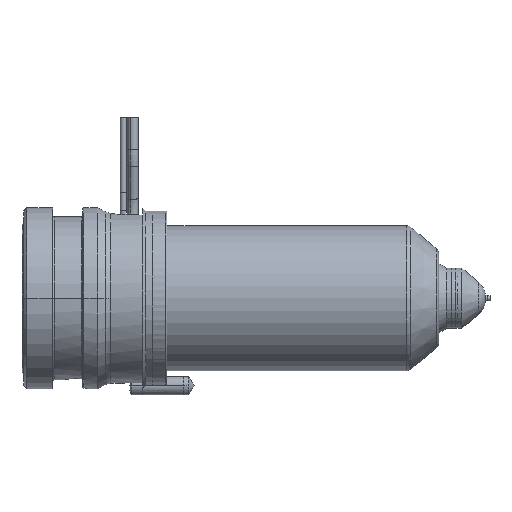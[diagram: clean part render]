
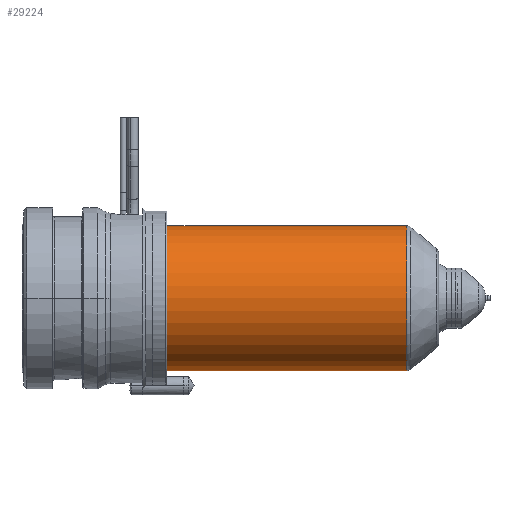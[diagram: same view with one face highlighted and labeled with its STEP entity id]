
A CAD part, left-side view. The second image highlights one B-rep face of the part: STEP entity #29224.
In plain terms, the highlighted cylindrical face has radius 12 mm (diameter 24 mm), a partial arc.
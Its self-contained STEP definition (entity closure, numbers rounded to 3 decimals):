
#28609=CARTESIAN_POINT('',(0.,-63.736,0.));
#28610=DIRECTION('',(0.,-1.,0.));
#28611=DIRECTION('',(0.,0.,1.));
#28612=AXIS2_PLACEMENT_3D('',#28609,#28610,#28611);
#28617=CARTESIAN_POINT('',(0.,-24.,0.));
#28618=DIRECTION('',(0.,1.,0.));
#28619=DIRECTION('',(0.,0.,-1.));
#28620=AXIS2_PLACEMENT_3D('',#28617,#28618,#28619);
#28625=DIRECTION('',(0.,1.,0.));
#28626=VECTOR('',#28625,39.736);
#28627=CARTESIAN_POINT('',(0.,-63.736,12.));
#28628=LINE('',#28627,#28626);
#28640=DIRECTION('',(0.,1.,0.));
#28641=VECTOR('',#28640,39.736);
#28642=CARTESIAN_POINT('',(0.,-63.736,-12.));
#28643=LINE('',#28642,#28641);
#28829=CARTESIAN_POINT('',(0.,-63.736,12.));
#28830=CARTESIAN_POINT('',(0.,-24.,12.));
#28831=VERTEX_POINT('',#28829);
#28832=VERTEX_POINT('',#28830);
#28833=CARTESIAN_POINT('',(0.,-63.736,-12.));
#28834=CARTESIAN_POINT('',(0.,-24.,-12.));
#28835=VERTEX_POINT('',#28833);
#28836=VERTEX_POINT('',#28834);
#29210=CARTESIAN_POINT('',(0.,-17.125,0.));
#29211=DIRECTION('',(0.,-1.,0.));
#29212=DIRECTION('',(0.,0.,1.));
#29213=AXIS2_PLACEMENT_3D('',#29210,#29211,#29212);
#29214=CYLINDRICAL_SURFACE('',#29213,12.);
#29216=ORIENTED_EDGE('',*,*,#29215,.F.);
#29217=ORIENTED_EDGE('',*,*,#29205,.T.);
#29219=ORIENTED_EDGE('',*,*,#29218,.T.);
#29221=ORIENTED_EDGE('',*,*,#29220,.T.);
#29222=EDGE_LOOP('',(#29216,#29217,#29219,#29221));
#29223=FACE_OUTER_BOUND('',#29222,.F.);
#29224=ADVANCED_FACE('',(#29223),#29214,.T.);
#28613=CIRCLE('',#28612,12.);
#28621=CIRCLE('',#28620,12.);
#29205=EDGE_CURVE('',#28831,#28835,#28613,.T.);
#29215=EDGE_CURVE('',#28831,#28832,#28628,.T.);
#29218=EDGE_CURVE('',#28835,#28836,#28643,.T.);
#29220=EDGE_CURVE('',#28836,#28832,#28621,.T.);
